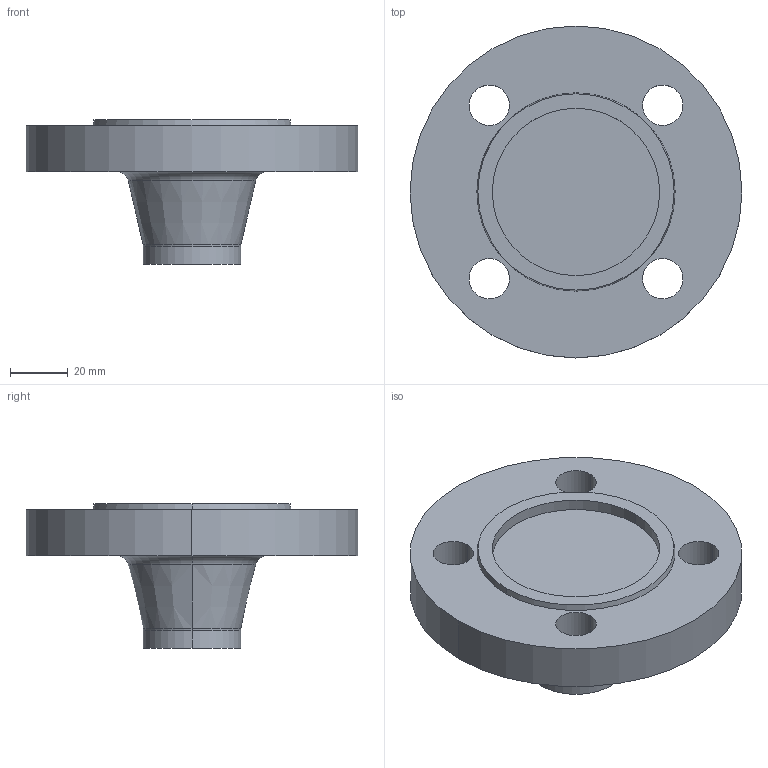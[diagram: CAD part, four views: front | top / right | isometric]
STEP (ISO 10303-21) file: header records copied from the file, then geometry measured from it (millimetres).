
FILE_DESCRIPTION (( 'STEP AP214' ), '1' );
FILE_NAME ('PN40 DN25 Type 21(ii) - Type F Face.STEP', '2018-12-29T20:13:15', ( '' ), ( '' ), 'SwSTEP 2.0', 'SolidWorks 2019', '' );
FILE_SCHEMA (( 'AUTOMOTIVE_DESIGN' ));
Length unit declared in the file: millimetre
Products named in the file (1): PN40 DN25 Type 21(ii) - Type F Face
Bounding box: 115 x 115 x 50 mm (x, y, z)
Volume: 190978.1 mm3; surface area: 32299.2 mm2
Topology: 1 solids, 1 shells, 27 faces, 60 edges, 38 vertices
Faces by surface type: cylinder 14, plane 5, torus 4, cone 4
Entity records: 818 total; most frequent: DIRECTION 158, CARTESIAN_POINT 126, ORIENTED_EDGE 120, AXIS2_PLACEMENT_3D 70, EDGE_CURVE 60, CIRCLE 42, VERTEX_POINT 38, EDGE_LOOP 38
